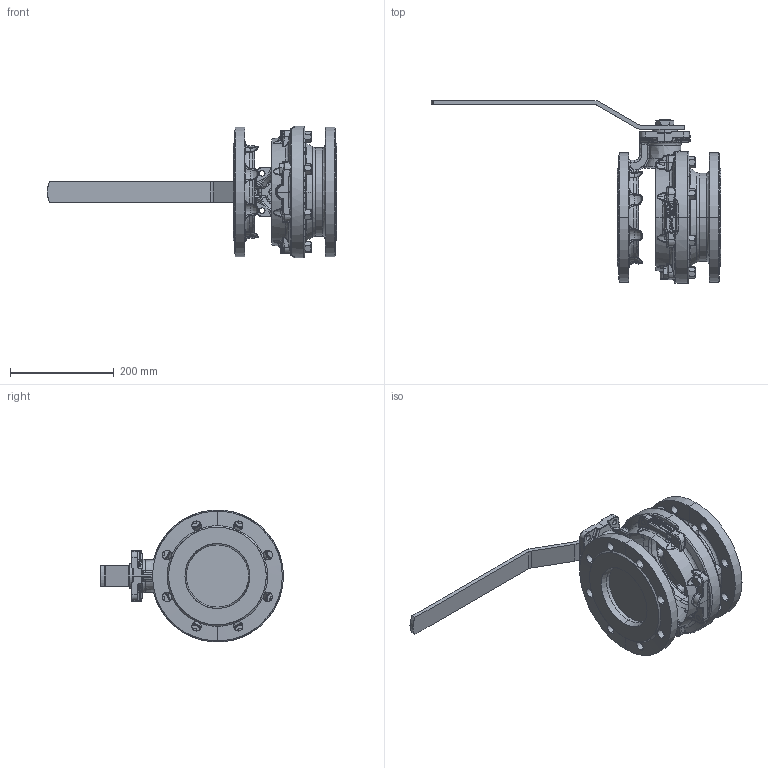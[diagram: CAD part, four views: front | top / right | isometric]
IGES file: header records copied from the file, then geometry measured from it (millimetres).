
Start section: SolidWorks IGES file using analytic representation for surfaces
Global section: file name: C:\Documents and Settings\Luca.Saino\Desktop\B2 IGES+DWG\IGES\B2.100I125L16CN.IGS; native system: SolidWorks 2008; preprocessor: SolidWorks 2008; author: Luca.Saino; date: 080617.110024; units: millimetre
Bounding box: 558.5 x 351.93 x 254 mm (x, y, z)
Surface area: 453259.1 mm2 (no closed solid volume)
Topology: 0 solids, 0 shells, 1714 faces, 22560 edges, 22514 vertices
Faces by surface type: bspline 1099, revolution 615
